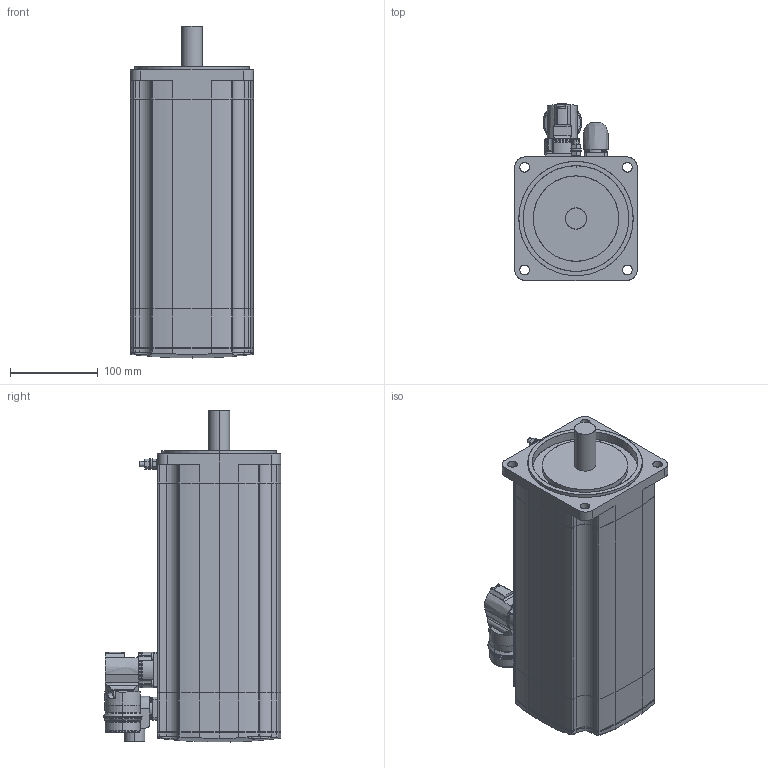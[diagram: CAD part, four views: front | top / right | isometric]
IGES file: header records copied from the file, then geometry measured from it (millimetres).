
Start section: SolidWorks IGES file using analytic representation for surfaces
Global section: file name: C:\PDM\SW-SAP\AA-IGES\SH31403x0xA2100.IGS; native system: SolidWorks 2010; preprocessor: SolidWorks 2010; author: SESA21951; date: 131129.112515; units: millimetre
Bounding box: 140 x 201.5 x 377.35 mm (x, y, z)
Surface area: 386766.7 mm2 (no closed solid volume)
Topology: 0 solids, 0 shells, 750 faces, 9771 edges, 9752 vertices
Faces by surface type: bspline 382, revolution 368
